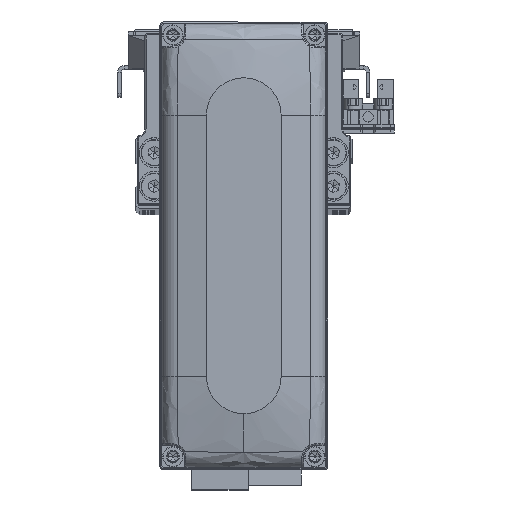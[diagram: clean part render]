
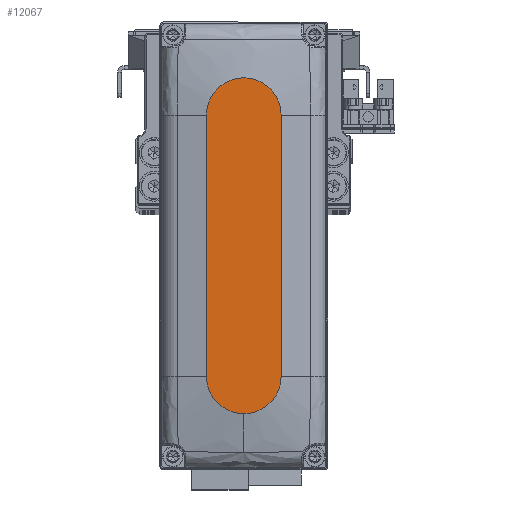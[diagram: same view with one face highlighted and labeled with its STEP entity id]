
A CAD part, top view. The second image highlights one B-rep face of the part: STEP entity #12067.
In plain terms, the highlighted planar face has unit normal (0, 0, 1).
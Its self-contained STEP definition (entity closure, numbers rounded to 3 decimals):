
#1532 = DIRECTION ( 'NONE',  ( 1., 0., 0. ) ) ;
#3277 = ORIENTED_EDGE ( 'NONE', *, *, #22959, .T. ) ;
#7006 = DIRECTION ( 'NONE',  ( 1., 0., 0. ) ) ;
#7267 = CARTESIAN_POINT ( 'NONE',  ( -35., -10., 28. ) ) ;
#7393 = EDGE_CURVE ( 'NONE', #16713, #14410, #38375, .T. ) ;
#7833 = ORIENTED_EDGE ( 'NONE', *, *, #7393, .T. ) ;
#7953 = LINE ( 'NONE', #21957, #42129 ) ;
#8055 = EDGE_CURVE ( 'NONE', #20629, #21360, #9862, .T. ) ;
#8470 = VERTEX_POINT ( 'NONE', #29212 ) ;
#8622 = DIRECTION ( 'NONE',  ( 0., 0., 1. ) ) ;
#9828 = CARTESIAN_POINT ( 'NONE',  ( 0., 0., 28. ) ) ;
#9862 = CIRCLE ( 'NONE', #35497, 10. ) ;
#10577 = CIRCLE ( 'NONE', #36224, 10. ) ;
#10758 = DIRECTION ( 'NONE',  ( 0., 0., 1. ) ) ;
#11508 = AXIS2_PLACEMENT_3D ( 'NONE', #9828, #23840, #37820 ) ;
#12067 = ADVANCED_FACE ( 'NONE', ( #27261 ), #41242, .T. ) ;
#14410 = VERTEX_POINT ( 'NONE', #21184 ) ;
#14840 = ORIENTED_EDGE ( 'NONE', *, *, #8055, .T. ) ;
#16713 = VERTEX_POINT ( 'NONE', #23644 ) ;
#19013 = CARTESIAN_POINT ( 'NONE',  ( 35., 0., 28. ) ) ;
#20629 = VERTEX_POINT ( 'NONE', #29159 ) ;
#21184 = CARTESIAN_POINT ( 'NONE',  ( 35., 10., 28. ) ) ;
#21360 = VERTEX_POINT ( 'NONE', #7267 ) ;
#21957 = CARTESIAN_POINT ( 'NONE',  ( -35., 10., 28. ) ) ;
#22632 = DIRECTION ( 'NONE',  ( 1., 0., 0. ) ) ;
#22959 = EDGE_CURVE ( 'NONE', #21360, #8470, #24452, .T. ) ;
#23644 = CARTESIAN_POINT ( 'NONE',  ( 45., 0., 28. ) ) ;
#23840 = DIRECTION ( 'NONE',  ( 0., 0., 1. ) ) ;
#24452 = LINE ( 'NONE', #38425, #24908 ) ;
#24757 = DIRECTION ( 'NONE',  ( 1., 0., 0. ) ) ;
#24908 = VECTOR ( 'NONE', #7006, 1000. ) ;
#27261 = FACE_OUTER_BOUND ( 'NONE', #38898, .T. ) ;
#29159 = CARTESIAN_POINT ( 'NONE',  ( -35., 10., 28. ) ) ;
#29212 = CARTESIAN_POINT ( 'NONE',  ( 35., -10., 28. ) ) ;
#32982 = DIRECTION ( 'NONE',  ( 0., 0., 1. ) ) ;
#34290 = ORIENTED_EDGE ( 'NONE', *, *, #35738, .T. ) ;
#35116 = ORIENTED_EDGE ( 'NONE', *, *, #41512, .T. ) ;
#35497 = AXIS2_PLACEMENT_3D ( 'NONE', #40046, #8622, #22632 ) ;
#35738 = EDGE_CURVE ( 'NONE', #8470, #16713, #10577, .T. ) ;
#35935 = DIRECTION ( 'NONE',  ( -1., 0., 0. ) ) ;
#36224 = AXIS2_PLACEMENT_3D ( 'NONE', #42172, #10758, #24757 ) ;
#37820 = DIRECTION ( 'NONE',  ( 1., 0., 0. ) ) ;
#38375 = CIRCLE ( 'NONE', #44236, 10. ) ;
#38425 = CARTESIAN_POINT ( 'NONE',  ( -35., -10., 28. ) ) ;
#38898 = EDGE_LOOP ( 'NONE', ( #35116, #14840, #3277, #34290, #7833 ) ) ;
#40046 = CARTESIAN_POINT ( 'NONE',  ( -35., 0., 28. ) ) ;
#41242 = PLANE ( 'NONE',  #11508 ) ;
#41512 = EDGE_CURVE ( 'NONE', #14410, #20629, #7953, .T. ) ;
#42129 = VECTOR ( 'NONE', #35935, 1000. ) ;
#42172 = CARTESIAN_POINT ( 'NONE',  ( 35., 0., 28. ) ) ;
#44236 = AXIS2_PLACEMENT_3D ( 'NONE', #19013, #32982, #1532 ) ;
